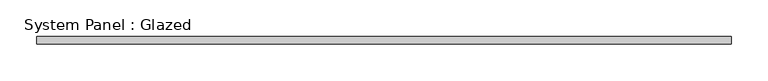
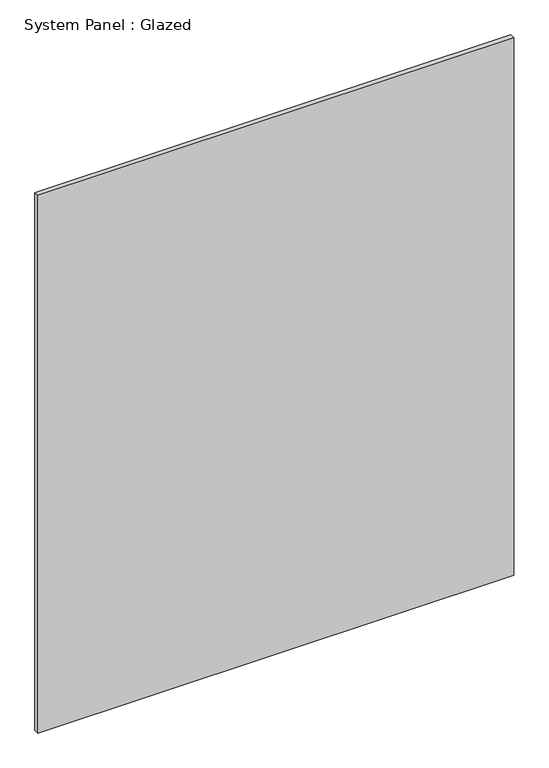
"""IFC4 building model written with IfcOpenShell, lengths in millimetres: plate geometry, System Panel : Glazed."""

import ifcopenshell
import ifcopenshell.guid

model = None  # the IFC model being written
_history = None  # IfcOwnerHistory: only IFC2X3 demands one
_inside = {}  # id of a spatial element -> (the spatial element, [elements in it])
_under = {}  # id of a project, library or spatial element -> (it, [spatial elements below it])
_declared = {}  # id of a project -> (the project, [libraries it declares])
_typed = {}  # id of a type object -> (the type object, [elements of that type])
_made_of = {}  # id of a material, layer set ... -> (it, [elements and type objects made of it])


def new_model(schema):
    """Start an empty IFC model of exactly this schema.

    Asked for "IFC4X3", IfcOpenShell would pick the latest addendum, in which some entities
    have other attributes; the version numbers below select the first issue.
    IFC2X3 requires an IfcOwnerHistory on every rooted entity: one is made here for all.
    """
    global model, _history
    if schema == "IFC4X3":
        model = ifcopenshell.file(schema_version=(4, 3, 0, 0))
    else:
        model = ifcopenshell.file(schema=schema)
    _inside.clear()
    _under.clear()
    _declared.clear()
    _typed.clear()
    _made_of.clear()
    _history = None
    if model.schema == "IFC2X3":
        org = make("IfcOrganization", Name="unknown")
        user = make(
            "IfcPersonAndOrganization",
            ThePerson=make("IfcPerson", FamilyName="unknown"),
            TheOrganization=org,
        )
        app = make(
            "IfcApplication",
            ApplicationDeveloper=org,
            Version="unknown",
            ApplicationFullName="unknown",
            ApplicationIdentifier="unknown",
        )
        _history = make(
            "IfcOwnerHistory",
            OwningUser=user,
            OwningApplication=app,
            ChangeAction="ADDED",
            CreationDate=0,
        )
    return model


def make(cls, **values):
    """One entity of the class cls with the attributes given. An attribute that is None is left unset."""
    return model.create_entity(
        cls, **{name: value for name, value in values.items() if value is not None}
    )


def rooted(cls, **values):
    """An entity with a GlobalId (a new one), such as an element, a storey or a relation."""
    return make(cls, GlobalId=ifcopenshell.guid.new(), OwnerHistory=_history, **values)


def si_unit(unit_type, name, prefix=None):
    """IfcSIUnit, for example si_unit("LENGTHUNIT", "METRE", prefix="MILLI")."""
    return make("IfcSIUnit", UnitType=unit_type, Prefix=prefix, Name=name)


def assignment(units):
    """IfcUnitAssignment: the units of a project."""
    return None if units is None else make("IfcUnitAssignment", Units=units)


def point(xyz):
    """IfcCartesianPoint."""
    return None if xyz is None else make("IfcCartesianPoint", Coordinates=xyz)


def direction(xyz):
    """IfcDirection."""
    return None if xyz is None else make("IfcDirection", DirectionRatios=xyz)


def frame(location, z_axis=None, x_axis=None):
    """IfcAxis2Placement3D, a coordinate frame: its origin and axes. An axis left out is left unset."""
    return make(
        "IfcAxis2Placement3D",
        Location=point(location),
        Axis=direction(z_axis),
        RefDirection=direction(x_axis),
    )


def origin():
    """The frame at (0, 0, 0) with its axes left unset."""
    return frame((0.0, 0.0, 0.0))


def origin_with_axes():
    """The frame at (0, 0, 0) with the z axis (0, 0, 1) and the x axis (1, 0, 0) written out."""
    return frame((0.0, 0.0, 0.0), z_axis=(0.0, 0.0, 1.0), x_axis=(1.0, 0.0, 0.0))


def place(relative_to, where):
    """IfcLocalPlacement: puts the frame where relative to a parent placement (None: the world)."""
    return make(
        "IfcLocalPlacement", PlacementRelTo=relative_to, RelativePlacement=where
    )


def context(
    kind, dimensions, precision=None, world=None, true_north=None, identifier=None
):
    """IfcGeometricRepresentationContext, for example the 3D "Model" context."""
    return make(
        "IfcGeometricRepresentationContext",
        ContextIdentifier=identifier,
        ContextType=kind,
        CoordinateSpaceDimension=dimensions,
        Precision=precision,
        WorldCoordinateSystem=world,
        TrueNorth=true_north,
    )


def project(units=None, contexts=None):
    """IfcProject with its units and contexts."""
    return rooted(
        "IfcProject",
        Name="project",
        RepresentationContexts=contexts,
        UnitsInContext=assignment(units),
    )


def spatial(cls, under=None, at=None, **own):
    """A site, building, storey or space (cls), placed at a placement, below another one or the project."""
    s = rooted(cls, ObjectPlacement=at, **own)
    if under is not None:
        _under.setdefault(under.id(), (under, []))[1].append(s)
    return s


def polyline(points):
    """IfcPolyline through the points."""
    return make("IfcPolyline", Points=[point(p) for p in points])


def outline(outer, holes=None, kind="AREA"):
    """IfcArbitraryClosedProfileDef: a profile drawn as a closed curve; with holes, ...WithVoids."""
    if holes is None:
        return make("IfcArbitraryClosedProfileDef", ProfileType=kind, OuterCurve=outer)
    return make(
        "IfcArbitraryProfileDefWithVoids",
        ProfileType=kind,
        OuterCurve=outer,
        InnerCurves=holes,
    )


def extrude(swept, where, along, depth):
    """IfcExtrudedAreaSolid: the profile swept, set in the frame where, extruded along a direction by depth."""
    return make(
        "IfcExtrudedAreaSolid",
        SweptArea=swept,
        Position=where,
        ExtrudedDirection=direction(along),
        Depth=depth,
    )


def shape(context_of_items, identifier, shape_type, items):
    """IfcShapeRepresentation: the items that make up one representation, for example the "Body"."""
    return make(
        "IfcShapeRepresentation",
        ContextOfItems=context_of_items,
        RepresentationIdentifier=identifier,
        RepresentationType=shape_type,
        Items=items,
    )


def source(mapping_origin, context_of_items, identifier, shape_type, items):
    """IfcRepresentationMap: a shape defined once, which mapped items show again and again."""
    return make(
        "IfcRepresentationMap",
        MappingOrigin=mapping_origin,
        MappedRepresentation=shape(context_of_items, identifier, shape_type, items),
    )


def transform(
    local_origin,
    x_axis=None,
    y_axis=None,
    z_axis=None,
    scale=None,
    scale2=None,
    scale3=None,
    uniform=True,
):
    """IfcCartesianTransformationOperator3D, or its non-uniform kind. x_axis, y_axis, z_axis: its Axis1, 2, 3."""
    if uniform:
        return make(
            "IfcCartesianTransformationOperator3D",
            Axis1=direction(x_axis),
            Axis2=direction(y_axis),
            LocalOrigin=point(local_origin),
            Scale=scale,
            Axis3=direction(z_axis),
        )
    return make(
        "IfcCartesianTransformationOperator3DnonUniform",
        Axis1=direction(x_axis),
        Axis2=direction(y_axis),
        LocalOrigin=point(local_origin),
        Scale=scale,
        Axis3=direction(z_axis),
        Scale2=scale2,
        Scale3=scale3,
    )


def mapped(mapping_source, mapping_target):
    """IfcMappedItem: shows the shape of a source again, moved by a transform."""
    return make(
        "IfcMappedItem", MappingSource=mapping_source, MappingTarget=mapping_target
    )


def made_of(thing, what):
    """Note that an element or type object is made of a material, layer set ...; save() writes the relation."""
    if what is not None:
        _made_of.setdefault(what.id(), (what, []))[1].append(thing)
    return thing


def element(
    cls,
    number,
    at=None,
    inside=None,
    cuts=None,
    type_object=None,
    material=None,
    context=None,
    identifier="Body",
    shape_type=None,
    held_by="IfcProductDefinitionShape",
    body=None,
    shapes=None,
    **own,
):
    """One element of the class cls, such as IfcWall. Its Tag is "e" and its number.

    at: its placement. inside: the storey or other place that contains it. cuts: it is an
    opening in that element (IfcRelVoidsElement). A single representation is given by context,
    identifier, shape_type and body (its items); several are given by shapes. held_by: the class
    of the entity that holds the representations. save() writes the other relations.
    """
    e = rooted(cls, Tag="e%d" % number, ObjectPlacement=at, **own)
    if body is not None:
        shapes = [shape(context, identifier, shape_type, body)]
    if shapes is not None:
        e.Representation = make(held_by, Representations=shapes)
    if inside is not None:
        _inside.setdefault(inside.id(), (inside, []))[1].append(e)
    if cuts is not None:
        rooted(
            "IfcRelVoidsElement", RelatingBuildingElement=cuts, RelatedOpeningElement=e
        )
    if type_object is not None:
        _typed.setdefault(type_object.id(), (type_object, []))[1].append(e)
    return made_of(e, material)


def aggregate(whole, parts):
    """IfcRelAggregates: a whole, such as a stair, and the parts it consists of."""
    return rooted("IfcRelAggregates", RelatingObject=whole, RelatedObjects=parts)


def save(model, path):
    """Write the relations noted so far, then the file.

    IfcRelAggregates (storeys below a building ...), IfcRelContainedInSpatialStructure (elements
    in a storey), IfcRelDefinesByType, IfcRelAssociatesMaterial and IfcRelDeclares: one each for
    every whole, place, type object, material and project.
    """
    for whole, parts in _under.values():
        aggregate(whole, parts)
    for where, things in _inside.values():
        rooted(
            "IfcRelContainedInSpatialStructure",
            RelatedElements=things,
            RelatingStructure=where,
        )
    for kind, things in _typed.values():
        rooted("IfcRelDefinesByType", RelatedObjects=things, RelatingType=kind)
    for what, things in _made_of.values():
        rooted("IfcRelAssociatesMaterial", RelatedObjects=things, RelatingMaterial=what)
    for by, libraries in _declared.values():
        rooted("IfcRelDeclares", RelatingContext=by, RelatedDefinitions=libraries)
    model.write(path)


def system_panel_glazed_7e8a296b(model_context):
    return source(origin(), model_context, "Body", "SweptSolid", [
        extrude(outline(polyline([(470.9999999, -5.0), (-470.9999999, -5.0), (-470.9999999, 5.0), (470.9999999, 5.0), (470.9999999, -5.0)])), origin_with_axes(), (0.0, 0.0, 1.0), 1124.6707214),
    ])


if __name__ == "__main__":
    model = new_model("IFC4")
    model_context = context("Model", 3, world=origin())
    ifc_project = project(units=[si_unit("LENGTHUNIT", "METRE", prefix="MILLI")], contexts=[model_context])
    site = spatial("IfcSite", under=ifc_project)
    building = spatial("IfcBuilding", under=site)
    placement = place(None, origin())
    system_panel_glazed_shape = system_panel_glazed_7e8a296b(model_context)
    element("IfcPlate", 1, ObjectType="System Panel : Glazed", at=placement, inside=building, context=model_context, shape_type="MappedRepresentation", body=[
        mapped(system_panel_glazed_shape, transform((0.0, 0.0, 0.0), x_axis=(1.0, 0.0, 0.0), y_axis=(0.0, 1.0, 0.0), z_axis=(0.0, 0.0, 1.0))),
    ])
    save(model, "model.ifc")
